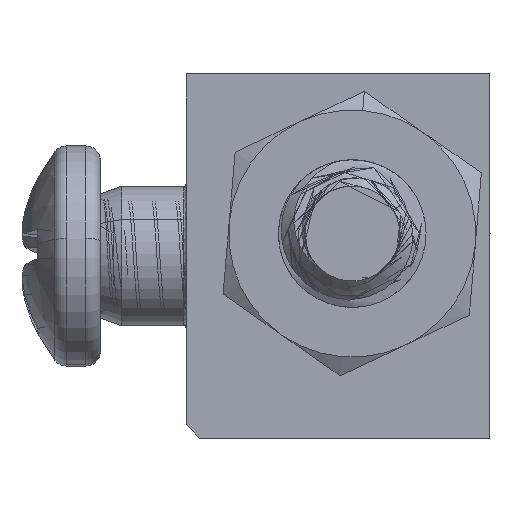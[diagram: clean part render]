
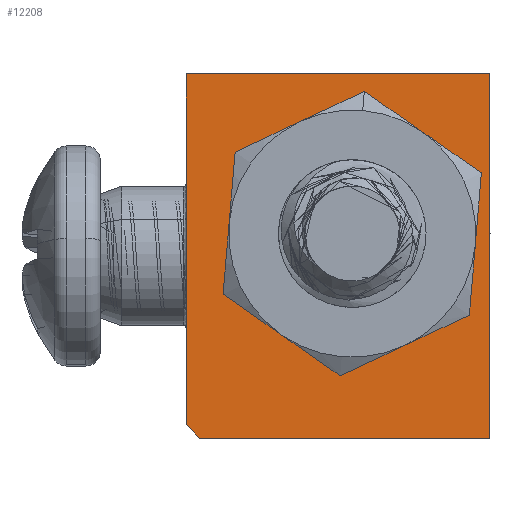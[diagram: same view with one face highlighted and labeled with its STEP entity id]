
A CAD part, front view. The second image highlights one B-rep face of the part: STEP entity #12208.
In plain terms, the highlighted planar face has unit normal (0, -1, 0) as drawn and (1, 0, 0) by its records, which use the part's own axes.
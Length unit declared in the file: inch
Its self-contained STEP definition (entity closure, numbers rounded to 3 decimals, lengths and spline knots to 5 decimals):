
#78 = ORIENTED_EDGE ( 'NONE', *, *, #1577, .T. ) ;
#143 = EDGE_CURVE ( 'NONE', #402, #6882, #8840, .T. ) ;
#402 = VERTEX_POINT ( 'NONE', #9722 ) ;
#667 = CARTESIAN_POINT ( 'NONE',  ( 0.32917, -0.2381, -0.115 ) ) ;
#826 = CARTESIAN_POINT ( 'NONE',  ( 0.32917, 0.0381, 0.115 ) ) ;
#894 = DIRECTION ( 'NONE',  ( 0., 1., 0. ) ) ;
#1068 = CARTESIAN_POINT ( 'NONE',  ( 0.32917, -0.2281, 0.115 ) ) ;
#1133 = CARTESIAN_POINT ( 'NONE',  ( 0.32917, 0.0381, -0.115 ) ) ;
#1319 = DIRECTION ( 'NONE',  ( 0., 0., -1. ) ) ;
#1391 = EDGE_CURVE ( 'NONE', #14354, #10901, #17076, .T. ) ;
#1577 = EDGE_CURVE ( 'NONE', #7006, #12362, #10740, .T. ) ;
#1858 = CARTESIAN_POINT ( 'NONE',  ( 0.32917, -0.2331, 0.11 ) ) ;
#2346 = CARTESIAN_POINT ( 'NONE',  ( 0.32917, -0.083, -0.011 ) ) ;
#3166 = AXIS2_PLACEMENT_3D ( 'NONE', #5191, #13427, #5623 ) ;
#3283 = ORIENTED_EDGE ( 'NONE', *, *, #1391, .F. ) ;
#3562 = EDGE_CURVE ( 'NONE', #6602, #7006, #16807, .T. ) ;
#3740 = PLANE ( 'NONE',  #8843 ) ;
#3866 = ORIENTED_EDGE ( 'NONE', *, *, #143, .F. ) ;
#4809 = CARTESIAN_POINT ( 'NONE',  ( 0.32917, -0.083, -0.071 ) ) ;
#4999 = CARTESIAN_POINT ( 'NONE',  ( 0.32917, -0.2381, 0.115 ) ) ;
#5073 = FACE_BOUND ( 'NONE', #5969, .T. ) ;
#5191 = CARTESIAN_POINT ( 'NONE',  ( 0.32917, -0.083, -0.011 ) ) ;
#5519 = DIRECTION ( 'NONE',  ( 1., 0., 0. ) ) ;
#5623 = DIRECTION ( 'NONE',  ( 0., 0., -1. ) ) ;
#5803 = DIRECTION ( 'NONE',  ( 0., -0.707, -0.707 ) ) ;
#5969 = EDGE_LOOP ( 'NONE', ( #13437, #3866 ) ) ;
#6114 = LINE ( 'NONE', #11414, #16503 ) ;
#6318 = EDGE_CURVE ( 'NONE', #6602, #14354, #17002, .T. ) ;
#6602 = VERTEX_POINT ( 'NONE', #1068 ) ;
#6882 = VERTEX_POINT ( 'NONE', #4809 ) ;
#7006 = VERTEX_POINT ( 'NONE', #16097 ) ;
#7487 = VECTOR ( 'NONE', #8665, 39.37008 ) ;
#7513 = VECTOR ( 'NONE', #5803, 39.37008 ) ;
#7622 = VECTOR ( 'NONE', #894, 39.37008 ) ;
#7721 = EDGE_CURVE ( 'NONE', #6882, #402, #14601, .T. ) ;
#8665 = DIRECTION ( 'NONE',  ( 0., 0., -1. ) ) ;
#8840 = CIRCLE ( 'NONE', #13417, 0.06 ) ;
#8843 = AXIS2_PLACEMENT_3D ( 'NONE', #9197, #5519, #1319 ) ;
#9197 = CARTESIAN_POINT ( 'NONE',  ( 0.32917, -0.2381, 0.115 ) ) ;
#9722 = CARTESIAN_POINT ( 'NONE',  ( 0.32917, -0.083, 0.049 ) ) ;
#9915 = ORIENTED_EDGE ( 'NONE', *, *, #6318, .F. ) ;
#10740 = LINE ( 'NONE', #4999, #14927 ) ;
#10901 = VERTEX_POINT ( 'NONE', #1133 ) ;
#11335 = DIRECTION ( 'NONE',  ( 0., 0., -1. ) ) ;
#11414 = CARTESIAN_POINT ( 'NONE',  ( 0.32917, -0.2381, -0.115 ) ) ;
#11821 = EDGE_LOOP ( 'NONE', ( #9915, #16285, #78, #12177, #3283 ) ) ;
#12177 = ORIENTED_EDGE ( 'NONE', *, *, #14271, .T. ) ;
#12208 = ADVANCED_FACE ( 'NONE', ( #5073, #16009 ), #3740, .T. ) ;
#12362 = VERTEX_POINT ( 'NONE', #667 ) ;
#13417 = AXIS2_PLACEMENT_3D ( 'NONE', #2346, #14016, #11335 ) ;
#13427 = DIRECTION ( 'NONE',  ( 1., 0., 0. ) ) ;
#13437 = ORIENTED_EDGE ( 'NONE', *, *, #7721, .F. ) ;
#14016 = DIRECTION ( 'NONE',  ( 1., 0., 0. ) ) ;
#14222 = CARTESIAN_POINT ( 'NONE',  ( 0.32917, 0.0381, -0.115 ) ) ;
#14234 = CARTESIAN_POINT ( 'NONE',  ( 0.32917, -0.2381, 0.115 ) ) ;
#14271 = EDGE_CURVE ( 'NONE', #12362, #10901, #6114, .T. ) ;
#14354 = VERTEX_POINT ( 'NONE', #826 ) ;
#14601 = CIRCLE ( 'NONE', #3166, 0.06 ) ;
#14927 = VECTOR ( 'NONE', #16187, 39.37008 ) ;
#15433 = DIRECTION ( 'NONE',  ( 0., 1., 0. ) ) ;
#16009 = FACE_OUTER_BOUND ( 'NONE', #11821, .T. ) ;
#16097 = CARTESIAN_POINT ( 'NONE',  ( 0.32917, -0.2381, 0.105 ) ) ;
#16187 = DIRECTION ( 'NONE',  ( 0., 0., -1. ) ) ;
#16285 = ORIENTED_EDGE ( 'NONE', *, *, #3562, .T. ) ;
#16503 = VECTOR ( 'NONE', #15433, 39.37008 ) ;
#16807 = LINE ( 'NONE', #1858, #7513 ) ;
#17002 = LINE ( 'NONE', #14234, #7622 ) ;
#17076 = LINE ( 'NONE', #14222, #7487 ) ;
